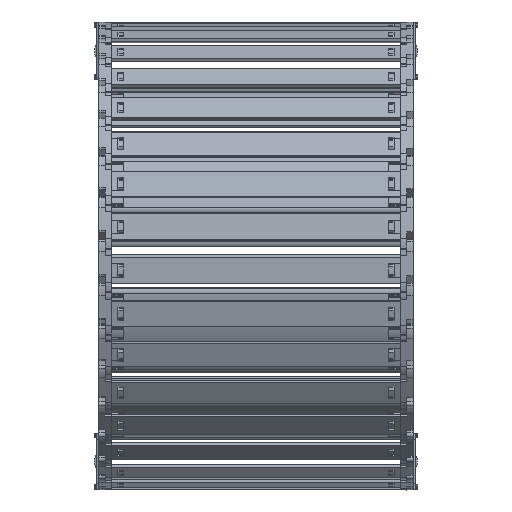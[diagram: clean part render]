
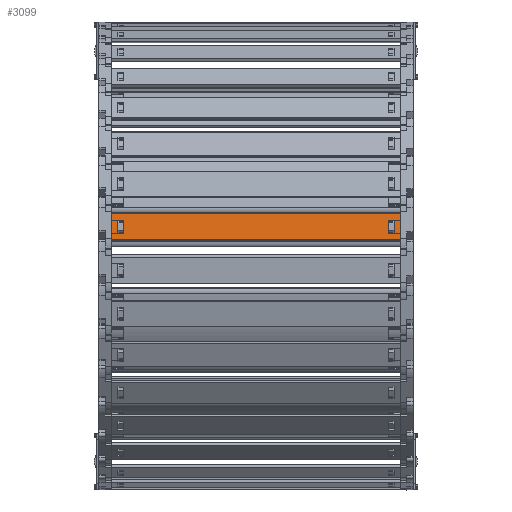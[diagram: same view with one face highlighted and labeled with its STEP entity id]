
A CAD part, top view. The second image highlights one B-rep face of the part: STEP entity #3099.
In plain terms, the highlighted planar face has unit normal (0, 0.125, 0.992) as drawn and (0, 1, 0) by its records, which use the part's own axes.
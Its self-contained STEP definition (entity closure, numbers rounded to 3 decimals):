
#2519=DIRECTION('',(0.,0.,1.));
#2520=VECTOR('',#2519,15.8);
#2521=CARTESIAN_POINT('',(161.24,1.5,-7.9));
#2522=LINE('',#2521,#2520);
#2523=DIRECTION('',(-1.,0.,0.));
#2524=VECTOR('',#2523,176.);
#2525=CARTESIAN_POINT('',(161.24,1.5,7.9));
#2526=LINE('',#2525,#2524);
#2527=DIRECTION('',(0.,0.,-1.));
#2528=VECTOR('',#2527,15.8);
#2529=CARTESIAN_POINT('',(-14.76,1.5,7.9));
#2530=LINE('',#2529,#2528);
#2531=DIRECTION('',(1.,0.,0.));
#2532=VECTOR('',#2531,3.648);
#2533=CARTESIAN_POINT('',(153.622,1.5,4.075));
#2534=LINE('',#2533,#2532);
#2535=DIRECTION('',(0.,0.,-1.));
#2536=VECTOR('',#2535,8.15);
#2537=CARTESIAN_POINT('',(157.27,1.5,4.075));
#2538=LINE('',#2537,#2536);
#2539=DIRECTION('',(-1.,0.,0.));
#2540=VECTOR('',#2539,3.648);
#2541=CARTESIAN_POINT('',(157.27,1.5,-4.075));
#2542=LINE('',#2541,#2540);
#2543=DIRECTION('',(0.,0.,-1.));
#2544=VECTOR('',#2543,8.15);
#2545=CARTESIAN_POINT('',(-7.142,1.5,4.075));
#2546=LINE('',#2545,#2544);
#2547=DIRECTION('',(-1.,0.,0.));
#2548=VECTOR('',#2547,3.648);
#2549=CARTESIAN_POINT('',(-7.142,1.5,-4.075));
#2550=LINE('',#2549,#2548);
#2551=DIRECTION('',(0.,0.,1.));
#2552=VECTOR('',#2551,8.15);
#2553=CARTESIAN_POINT('',(-10.79,1.5,-4.075));
#2554=LINE('',#2553,#2552);
#2555=DIRECTION('',(1.,0.,0.));
#2556=VECTOR('',#2555,3.648);
#2557=CARTESIAN_POINT('',(-10.79,1.5,4.075));
#2558=LINE('',#2557,#2556);
#2563=DIRECTION('',(-1.,0.,0.));
#2564=VECTOR('',#2563,176.);
#2565=CARTESIAN_POINT('',(161.24,1.5,-7.9));
#2566=LINE('',#2565,#2564);
#2684=DIRECTION('',(0.,0.,-1.));
#2685=VECTOR('',#2684,8.15);
#2686=CARTESIAN_POINT('',(153.622,1.5,4.075));
#2687=LINE('',#2686,#2685);
#2869=CARTESIAN_POINT('',(157.27,1.5,4.075));
#2870=VERTEX_POINT('',#2869);
#2871=CARTESIAN_POINT('',(153.622,1.5,4.075));
#2872=VERTEX_POINT('',#2871);
#2913=CARTESIAN_POINT('',(153.622,1.5,-4.075));
#2914=VERTEX_POINT('',#2913);
#2915=CARTESIAN_POINT('',(157.27,1.5,-4.075));
#2916=VERTEX_POINT('',#2915);
#2917=CARTESIAN_POINT('',(161.24,1.5,7.9));
#2919=VERTEX_POINT('',#2917);
#2921=CARTESIAN_POINT('',(161.24,1.5,-7.9));
#2922=VERTEX_POINT('',#2921);
#2945=CARTESIAN_POINT('',(-7.142,1.5,4.075));
#2946=CARTESIAN_POINT('',(-7.142,1.5,-4.075));
#2947=VERTEX_POINT('',#2945);
#2948=VERTEX_POINT('',#2946);
#2949=CARTESIAN_POINT('',(-10.79,1.5,-4.075));
#2950=VERTEX_POINT('',#2949);
#2951=CARTESIAN_POINT('',(-10.79,1.5,4.075));
#2952=VERTEX_POINT('',#2951);
#2953=CARTESIAN_POINT('',(-14.76,1.5,7.9));
#2954=VERTEX_POINT('',#2953);
#2957=CARTESIAN_POINT('',(-14.76,1.5,-7.9));
#2958=VERTEX_POINT('',#2957);
#3068=CARTESIAN_POINT('',(192.98,1.5,10.061));
#3069=DIRECTION('',(0.,-1.,0.));
#3070=DIRECTION('',(0.,0.,-1.));
#3071=AXIS2_PLACEMENT_3D('',#3068,#3069,#3070);
#3072=PLANE('',#3071);
#3073=ORIENTED_EDGE('',*,*,#3007,.T.);
#3074=ORIENTED_EDGE('',*,*,#3033,.T.);
#3075=ORIENTED_EDGE('',*,*,#3046,.T.);
#3077=ORIENTED_EDGE('',*,*,#3076,.F.);
#3078=EDGE_LOOP('',(#3073,#3074,#3075,#3077));
#3079=FACE_OUTER_BOUND('',#3078,.F.);
#3081=ORIENTED_EDGE('',*,*,#3080,.F.);
#3082=ORIENTED_EDGE('',*,*,#2970,.T.);
#3084=ORIENTED_EDGE('',*,*,#3083,.T.);
#3086=ORIENTED_EDGE('',*,*,#3085,.T.);
#3087=EDGE_LOOP('',(#3081,#3082,#3084,#3086));
#3088=FACE_BOUND('',#3087,.F.);
#3090=ORIENTED_EDGE('',*,*,#3089,.T.);
#3092=ORIENTED_EDGE('',*,*,#3091,.T.);
#3094=ORIENTED_EDGE('',*,*,#3093,.T.);
#3096=ORIENTED_EDGE('',*,*,#3095,.T.);
#3097=EDGE_LOOP('',(#3090,#3092,#3094,#3096));
#3098=FACE_BOUND('',#3097,.F.);
#3099=ADVANCED_FACE('',(#3079,#3088,#3098),#3072,.F.);
#2970=EDGE_CURVE('',#2872,#2870,#2534,.T.);
#3007=EDGE_CURVE('',#2922,#2919,#2522,.T.);
#3033=EDGE_CURVE('',#2919,#2954,#2526,.T.);
#3046=EDGE_CURVE('',#2954,#2958,#2530,.T.);
#3076=EDGE_CURVE('',#2922,#2958,#2566,.T.);
#3080=EDGE_CURVE('',#2872,#2914,#2687,.T.);
#3083=EDGE_CURVE('',#2870,#2916,#2538,.T.);
#3085=EDGE_CURVE('',#2916,#2914,#2542,.T.);
#3089=EDGE_CURVE('',#2947,#2948,#2546,.T.);
#3091=EDGE_CURVE('',#2948,#2950,#2550,.T.);
#3093=EDGE_CURVE('',#2950,#2952,#2554,.T.);
#3095=EDGE_CURVE('',#2952,#2947,#2558,.T.);
